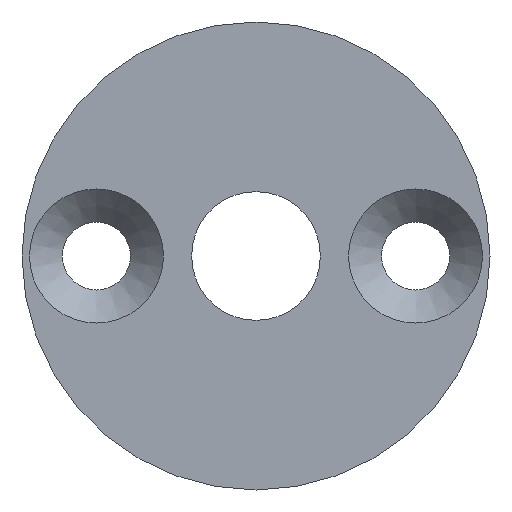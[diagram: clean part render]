
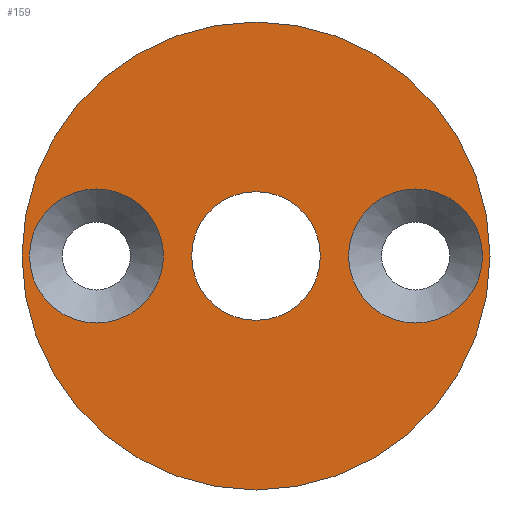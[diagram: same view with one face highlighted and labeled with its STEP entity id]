
A CAD part, left-side view. The second image highlights one B-rep face of the part: STEP entity #159.
In plain terms, the highlighted planar face has unit normal (-1, 0, 0).
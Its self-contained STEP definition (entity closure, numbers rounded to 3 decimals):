
#15=FACE_BOUND('',#46,.T.);
#16=FACE_BOUND('',#47,.T.);
#17=FACE_BOUND('',#48,.T.);
#22=PLANE('',#200);
#35=FACE_OUTER_BOUND('',#45,.T.);
#45=EDGE_LOOP('',(#134));
#46=EDGE_LOOP('',(#135));
#47=EDGE_LOOP('',(#136));
#48=EDGE_LOOP('',(#137));
#71=CIRCLE('',#188,3.15);
#74=CIRCLE('',#193,3.15);
#77=CIRCLE('',#198,3.025);
#79=CIRCLE('',#201,11.);
#83=VERTEX_POINT('',#264);
#86=VERTEX_POINT('',#274);
#89=VERTEX_POINT('',#284);
#91=VERTEX_POINT('',#290);
#95=EDGE_CURVE('',#83,#83,#71,.T.);
#100=EDGE_CURVE('',#86,#86,#74,.T.);
#105=EDGE_CURVE('',#89,#89,#77,.T.);
#108=EDGE_CURVE('',#91,#91,#79,.T.);
#134=ORIENTED_EDGE('',*,*,#108,.F.);
#135=ORIENTED_EDGE('',*,*,#95,.T.);
#136=ORIENTED_EDGE('',*,*,#100,.T.);
#137=ORIENTED_EDGE('',*,*,#105,.T.);
#159=ADVANCED_FACE('',(#35,#15,#16,#17),#22,.T.);
#188=AXIS2_PLACEMENT_3D('',#265,#213,#214);
#193=AXIS2_PLACEMENT_3D('',#275,#225,#226);
#198=AXIS2_PLACEMENT_3D('',#285,#237,#238);
#200=AXIS2_PLACEMENT_3D('',#289,#242,#243);
#201=AXIS2_PLACEMENT_3D('',#291,#244,#245);
#213=DIRECTION('center_axis',(1.,0.,0.));
#214=DIRECTION('ref_axis',(0.,0.,1.));
#225=DIRECTION('center_axis',(1.,0.,0.));
#226=DIRECTION('ref_axis',(0.,0.,1.));
#237=DIRECTION('center_axis',(1.,0.,0.));
#238=DIRECTION('ref_axis',(0.,0.,1.));
#242=DIRECTION('center_axis',(-1.,0.,0.));
#243=DIRECTION('ref_axis',(0.,0.,1.));
#244=DIRECTION('center_axis',(1.,0.,0.));
#245=DIRECTION('ref_axis',(0.,0.,-1.));
#264=CARTESIAN_POINT('',(0.,7.5,-3.15));
#265=CARTESIAN_POINT('Origin',(0.,7.5,0.));
#274=CARTESIAN_POINT('',(0.,-7.5,-3.15));
#275=CARTESIAN_POINT('Origin',(0.,-7.5,0.));
#284=CARTESIAN_POINT('',(0.,0.,-3.025));
#285=CARTESIAN_POINT('Origin',(0.,0.,0.));
#289=CARTESIAN_POINT('Origin',(0.,11.,0.));
#290=CARTESIAN_POINT('',(0.,-11.,0.));
#291=CARTESIAN_POINT('Origin',(0.,0.,0.));
